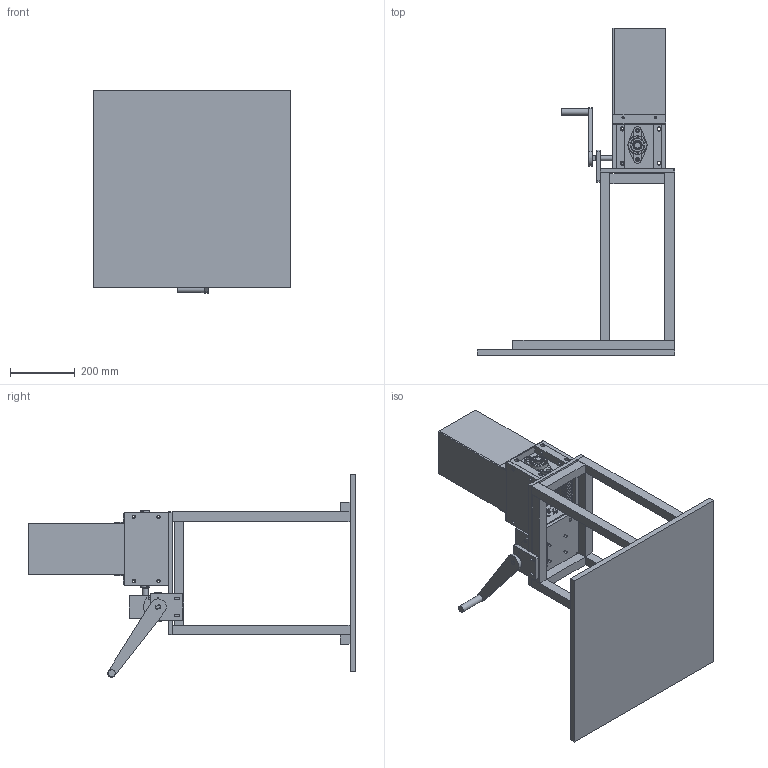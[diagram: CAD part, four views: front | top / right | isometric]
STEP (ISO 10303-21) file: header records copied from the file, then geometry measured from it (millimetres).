
FILE_DESCRIPTION(/* description */ (''),/* implementation_level */ '2;1');
FILE_NAME(/* name */ 'C:/Users/Javier/Downloads/statements/Shr3dder 2 v19.step',/* time_stamp */ '2019-10-13T11:41:48+01:00',/* author */ (''),/* organization */ (''),/* preprocessor_version */ 'ST-DEVELOPER v18',/* originating_system */ 'Autodesk Translation Framework v8.6.0.1094',/* authorisation */ '');
FILE_SCHEMA (('AUTOMOTIVE_DESIGN { 1 0 10303 214 3 1 1 }'));
Length unit declared in the file: millimetre
Products named in the file (115): Shr3dder 2; Shredding; Shaft; Shaft_1; Spacer (1); 01.04.09 bearingspacer 3mm 2x; 01.04.02 spacer 6mm; Spacer; 01.04.09 bearingspacer 3mm 2x_1; 01.04.09 Bearingspacer 3mm 2x_2; 01.04.02 spacer 6mm_1; 01.04.02 spacer 6mm_2; Messet; 01.04.03; 01.04.04; 01.04.05 Knife 3 5mm; 01.04.03_1; 01.04.04_1; 01.04.05 Knife 3 5mm_1; 01.04.03_2; 01.04.04_2; 01.04.05 Knife 3 5mm_2; 01.04.03_3; 01.04.04_3; 01.04.05 Knife 3 5mm_3; 01.04.05 Knife 3 5mm (1); 01.04.03_4; 01.04.03 Knife 1 5mm; 01.04.04_4; 01.04.04 Knife 5mm 2; tegenmessen; kladsettegenmessenrin; 01.04.06 Spacer 6mm ; 01.04.07 Counterknife small 6mm 15x; .1.04.08 CounterKnife Big 5mm 13x (1); kladsettegenmessenrin_1; 01.04.06 Spacer 6mm _1; 01.04.07 Counterknife small 6mm 15x_1; .1.04.08 CounterKnife Big 5mm 13x (1)_1; kladsettegenmessenrin_2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
Assembly tree (178 placements, depth 6):
  Shr3dder 2
    Shredding
      Shaft
        Shaft_1
        Spacer (1)
          01.04.09 bearingspacer 3mm 2x
            01.04.09 Bearingspacer 3mm 2x_2
          01.04.02 spacer 6mm
            01.04.02 spacer 6mm_2
        Spacer
          01.04.09 bearingspacer 3mm 2x_1
            01.04.09 Bearingspacer 3mm 2x_2
          01.04.02 spacer 6mm_1
            01.04.02 spacer 6mm_2
      Messet
        01.04.03
          01.04.03 Knife 1 5mm
        01.04.04
          01.04.04 Knife 5mm 2
        01.04.05 Knife 3 5mm
          01.04.05 Knife 3 5mm (1)
        01.04.03_1
          01.04.03 Knife 1 5mm
        01.04.04_1
          01.04.04 Knife 5mm 2
        01.04.05 Knife 3 5mm_1
          01.04.05 Knife 3 5mm (1)
        01.04.03_2
          01.04.03 Knife 1 5mm
        01.04.04_2
          01.04.04 Knife 5mm 2
        01.04.05 Knife 3 5mm_2
          01.04.05 Knife 3 5mm (1)
        01.04.03_3
          01.04.03 Knife 1 5mm
        01.04.04_3
          01.04.04 Knife 5mm 2
        01.04.05 Knife 3 5mm_3
          01.04.05 Knife 3 5mm (1)
        01.04.03_4
          01.04.03 Knife 1 5mm
        01.04.04_4
          01.04.04 Knife 5mm 2
      tegenmessen
        kladsettegenmessenrin
          01.04.06 Spacer 6mm 
            01.04.06 Spacer 6mm
          01.04.07 Counterknife small 6mm 15x
            01.04.07 Counterknife small 6m 15x
          .1.04.08 CounterKnife Big 5mm 13x (1)
            01.04.08 CounterknifBig 5mm 13x (1)
        kladsettegenmessenrin_1
          01.04.06 Spacer 6mm _1
            01.04.06 Spacer 6mm
          01.04.07 Counterknife small 6mm 15x_1
            01.04.07 Counterknife small 6m 15x
          .1.04.08 CounterKnife Big 5mm 13x (1)_1
            01.04.08 CounterknifBig 5mm 13x (1)
        kladsettegenmessenrin_2
          01.04.06 Spacer 6mm _2
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Bounding box: 610 x 1013.5 x 626.26 mm (x, y, z)
Volume: 17433209.8 mm3; surface area: 2902906.6 mm2
Topology: 92 solids, 96 shells, 1441 faces, 3639 edges, 2435 vertices
Faces by surface type: plane 891, cylinder 481, cone 35, torus 20, sphere 14
Full cylindrical faces by diameter (mm): 0.8 x8, 3 x4, 4.5 x2, 4.918 x2, 6 x6, 6.5 x8, 6.779 x1, 8 x8, 8.5 x9, 8.526 x20, 10.5 x66, 11 x5, 12 x4, 16 x1, 18 x2, 20 x4, 20.2 x4, 21.559 x1, 29 x8, 32 x2, 40 x2, 40.314 x4, 42 x2, 50 x13, 51.7 x2, 54 x4
Entity records: 17958 total; most frequent: CARTESIAN_POINT 3310, DIRECTION 3018, ORIENTED_EDGE 2300, AXIS2_PLACEMENT_3D 1151, EDGE_CURVE 1150, VERTEX_POINT 773, LINE 716, VECTOR 716
